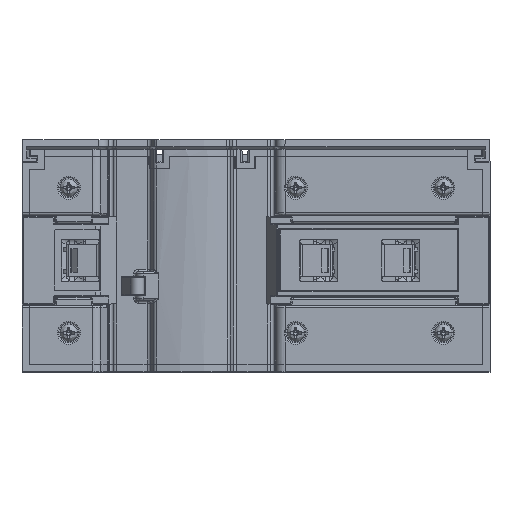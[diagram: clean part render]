
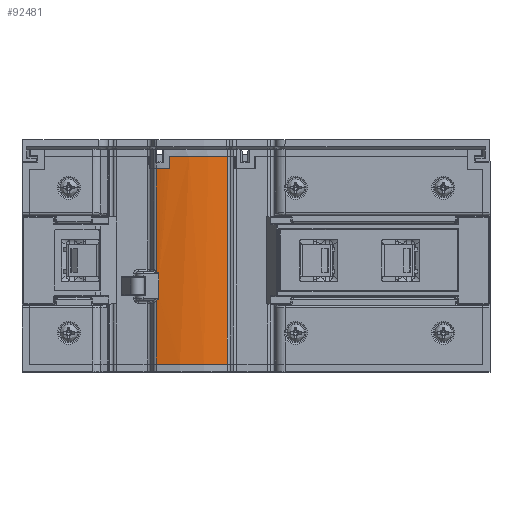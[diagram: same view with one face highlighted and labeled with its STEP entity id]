
A CAD part, top view. The second image highlights one B-rep face of the part: STEP entity #92481.
In plain terms, the highlighted cylindrical face has radius 31.75 mm (diameter 63.5 mm), a partial arc.
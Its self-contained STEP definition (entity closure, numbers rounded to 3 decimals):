
#78253=CARTESIAN_POINT('',(-13.7,19.55,15.35));
#78254=DIRECTION('',(0.,-1.,0.));
#78255=DIRECTION('',(-0.15,0.,0.989));
#78256=AXIS2_PLACEMENT_3D('',#78253,#78254,#78255);
#78261=CARTESIAN_POINT('',(-18.405,22.15,46.75));
#78262=CARTESIAN_POINT('',(-18.42,21.283,
46.747));
#78263=CARTESIAN_POINT('',(-18.435,20.417,
46.745));
#78264=CARTESIAN_POINT('',(-18.45,19.55,46.743));
#78269=CARTESIAN_POINT('',(-13.7,22.15,15.35));
#78270=DIRECTION('',(0.,-1.,0.));
#78271=DIRECTION('',(0.239,0.,0.971));
#78272=AXIS2_PLACEMENT_3D('',#78269,#78270,#78271);
#78277=DIRECTION('',(0.,-1.,0.));
#78278=VECTOR('',#78277,44.3);
#78279=CARTESIAN_POINT('',(-6.116,22.15,46.181));
#78280=LINE('',#78279,#78278);
#78284=CARTESIAN_POINT('',(-13.7,-22.15,15.35));
#78285=DIRECTION('',(0.,-1.,0.));
#78286=DIRECTION('',(0.239,0.,0.971));
#78287=AXIS2_PLACEMENT_3D('',#78284,#78285,#78286);
#78292=DIRECTION('',(0.,1.,0.));
#78293=VECTOR('',#78292,13.542);
#78294=CARTESIAN_POINT('',(-21.284,-22.15,46.181));
#78295=LINE('',#78294,#78293);
#78299=CARTESIAN_POINT('',(-21.284,-8.608,
46.181));
#78300=CARTESIAN_POINT('',(-21.26,-8.598,
46.187));
#78301=CARTESIAN_POINT('',(-21.215,-8.577,
46.198));
#78302=CARTESIAN_POINT('',(-21.153,-8.547,
46.213));
#78303=CARTESIAN_POINT('',(-21.096,-8.517,
46.227));
#78304=CARTESIAN_POINT('',(-21.044,-8.488,
46.239));
#78305=CARTESIAN_POINT('',(-20.996,-8.459,
46.25));
#78306=CARTESIAN_POINT('',(-20.953,-8.429,
46.261));
#78307=CARTESIAN_POINT('',(-20.913,-8.4,
46.27));
#78308=CARTESIAN_POINT('',(-20.878,-8.371,
46.278));
#78309=CARTESIAN_POINT('',(-20.846,-8.342,
46.285));
#78310=CARTESIAN_POINT('',(-20.818,-8.313,
46.292));
#78311=CARTESIAN_POINT('',(-20.795,-8.285,
46.297));
#78312=CARTESIAN_POINT('',(-20.775,-8.257,
46.302));
#78313=CARTESIAN_POINT('',(-20.759,-8.229,
46.305));
#78314=CARTESIAN_POINT('',(-20.747,-8.203,
46.308));
#78315=CARTESIAN_POINT('',(-20.737,-8.176,
46.31));
#78316=CARTESIAN_POINT('',(-20.73,-8.146,
46.312));
#78317=CARTESIAN_POINT('',(-20.728,-8.122,
46.312));
#78318=CARTESIAN_POINT('',(-20.728,-8.109,
46.312));
#78323=DIRECTION('',(0.,1.,0.));
#78324=VECTOR('',#78323,5.217);
#78325=CARTESIAN_POINT('',(-20.728,-8.109,
46.312));
#78326=LINE('',#78325,#78324);
#78330=CARTESIAN_POINT('',(-20.728,-2.891,
46.312));
#78331=CARTESIAN_POINT('',(-20.728,-2.864,
46.312));
#78332=CARTESIAN_POINT('',(-20.738,-2.811,
46.31));
#78333=CARTESIAN_POINT('',(-20.775,-2.739,
46.302));
#78334=CARTESIAN_POINT('',(-20.825,-2.678,
46.29));
#78335=CARTESIAN_POINT('',(-20.881,-2.625,
46.277));
#78336=CARTESIAN_POINT('',(-20.944,-2.576,
46.263));
#78337=CARTESIAN_POINT('',(-21.015,-2.529,
46.246));
#78338=CARTESIAN_POINT('',(-21.096,-2.482,
46.227));
#78339=CARTESIAN_POINT('',(-21.185,-2.436,
46.205));
#78340=CARTESIAN_POINT('',(-21.25,-2.407,
46.189));
#78341=CARTESIAN_POINT('',(-21.284,-2.392,
46.181));
#78346=DIRECTION('',(0.,1.,0.));
#78347=VECTOR('',#78346,21.942);
#78348=CARTESIAN_POINT('',(-21.284,-2.392,
46.181));
#78349=LINE('',#78348,#78347);
#78459=CARTESIAN_POINT('',(-21.284,-2.392,
46.181));
#83386=CARTESIAN_POINT('',(-6.116,-22.15,46.181));
#83388=VERTEX_POINT('',#83386);
#83389=CARTESIAN_POINT('',(-6.116,22.15,46.181));
#83390=VERTEX_POINT('',#83389);
#83393=CARTESIAN_POINT('',(-21.284,-22.15,46.181));
#83395=VERTEX_POINT('',#83393);
#83859=VERTEX_POINT('',#78459);
#83861=VERTEX_POINT('',#78330);
#83863=CARTESIAN_POINT('',(-20.728,-8.109,
46.312));
#83864=VERTEX_POINT('',#83863);
#83867=VERTEX_POINT('',#78299);
#84527=CARTESIAN_POINT('',(-21.284,19.55,46.181));
#84528=VERTEX_POINT('',#84527);
#84531=CARTESIAN_POINT('',(-18.45,19.55,46.743));
#84532=VERTEX_POINT('',#84531);
#84533=VERTEX_POINT('',#78261);
#92457=CARTESIAN_POINT('',(-13.7,69.,15.35));
#92458=DIRECTION('',(0.,-1.,0.));
#92459=DIRECTION('',(0.,0.,1.));
#92460=AXIS2_PLACEMENT_3D('',#92457,#92458,#92459);
#92461=CYLINDRICAL_SURFACE('',#92460,31.75);
#92463=ORIENTED_EDGE('',*,*,#92462,.F.);
#92464=ORIENTED_EDGE('',*,*,#92163,.F.);
#92465=ORIENTED_EDGE('',*,*,#86461,.F.);
#92467=ORIENTED_EDGE('',*,*,#92466,.T.);
#92468=ORIENTED_EDGE('',*,*,#85714,.T.);
#92470=ORIENTED_EDGE('',*,*,#92469,.T.);
#92472=ORIENTED_EDGE('',*,*,#92471,.T.);
#92474=ORIENTED_EDGE('',*,*,#92473,.T.);
#92476=ORIENTED_EDGE('',*,*,#92475,.T.);
#92478=ORIENTED_EDGE('',*,*,#92477,.T.);
#92479=EDGE_LOOP('',(#92463,#92464,#92465,#92467,#92468,#92470,#92472,#92474,
#92476,#92478));
#92480=FACE_OUTER_BOUND('',#92479,.F.);
#92481=ADVANCED_FACE('',(#92480),#92461,.T.);
#78257=CIRCLE('',#78256,31.75);
#78265=B_SPLINE_CURVE_WITH_KNOTS('',3,(#78261,#78262,#78263,#78264),
.UNSPECIFIED.,.F.,.F.,(4,4),(0.,1.),.UNSPECIFIED.);
#78273=CIRCLE('',#78272,31.75);
#78288=CIRCLE('',#78287,31.75);
#78319=B_SPLINE_CURVE_WITH_KNOTS('',3,(#78299,#78300,#78301,#78302,#78303,
#78304,#78305,#78306,#78307,#78308,#78309,#78310,#78311,#78312,#78313,#78314,
#78315,#78316,#78317,#78318),.UNSPECIFIED.,.F.,.F.,(4,1,1,1,1,1,1,1,1,1,1,1,1,1,
1,1,1,4),(0.,0.059,0.118,0.176,
0.235,0.294,0.353,0.412,
0.471,0.529,0.588,0.647,
0.706,0.765,0.824,0.882,
0.941,1.),.UNSPECIFIED.);
#78342=B_SPLINE_CURVE_WITH_KNOTS('',3,(#78330,#78331,#78332,#78333,#78334,
#78335,#78336,#78337,#78338,#78339,#78340,#78341),.UNSPECIFIED.,.F.,.F.,(4,1,1,
1,1,1,1,1,1,4),(0.,0.111,0.222,0.333,
0.444,0.556,0.667,0.778,
0.889,1.),.UNSPECIFIED.);
#85714=EDGE_CURVE('',#83388,#83395,#78288,.T.);
#86461=EDGE_CURVE('',#83390,#84533,#78273,.T.);
#92163=EDGE_CURVE('',#84533,#84532,#78265,.T.);
#92462=EDGE_CURVE('',#84532,#84528,#78257,.T.);
#92466=EDGE_CURVE('',#83390,#83388,#78280,.T.);
#92469=EDGE_CURVE('',#83395,#83867,#78295,.T.);
#92471=EDGE_CURVE('',#83867,#83864,#78319,.T.);
#92473=EDGE_CURVE('',#83864,#83861,#78326,.T.);
#92475=EDGE_CURVE('',#83861,#83859,#78342,.T.);
#92477=EDGE_CURVE('',#83859,#84528,#78349,.T.);
